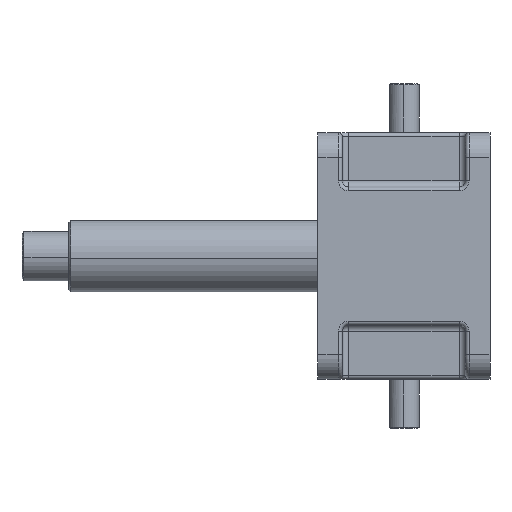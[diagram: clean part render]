
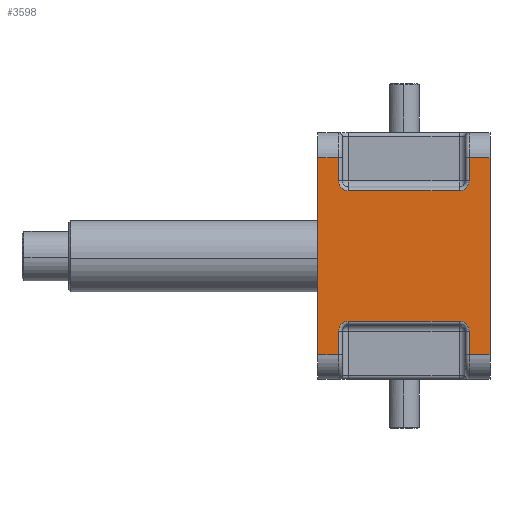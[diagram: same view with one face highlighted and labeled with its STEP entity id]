
A CAD part, left-side view. The second image highlights one B-rep face of the part: STEP entity #3598.
In plain terms, the highlighted planar face has unit normal (-1, 0, 0).
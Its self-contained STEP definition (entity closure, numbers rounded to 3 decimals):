
#3547 = EDGE_CURVE ( 'NONE', #3549, #3548, #6164, .T. ) ;
#3548 = VERTEX_POINT ( 'NONE', #6160 ) ;
#3549 = VERTEX_POINT ( 'NONE', #6159 ) ;
#3552 = VERTEX_POINT ( 'NONE', #6217 ) ;
#3562 = VERTEX_POINT ( 'NONE', #6193 ) ;
#3564 = EDGE_CURVE ( 'NONE', #3552, #3562, #6192, .T. ) ;
#3571 = VERTEX_POINT ( 'NONE', #6235 ) ;
#3582 = EDGE_CURVE ( 'NONE', #3583, #3587, #6272, .T. ) ;
#3583 = VERTEX_POINT ( 'NONE', #6268 ) ;
#3584 = EDGE_CURVE ( 'NONE', #3587, #3588, #6267, .T. ) ;
#3586 = ORIENTED_EDGE ( 'NONE', *, *, #3584, .T. ) ;
#3587 = VERTEX_POINT ( 'NONE', #6263 ) ;
#3588 = VERTEX_POINT ( 'NONE', #6262 ) ;
#3589 = VERTEX_POINT ( 'NONE', #6261 ) ;
#3590 = ORIENTED_EDGE ( 'NONE', *, *, #3600, .T. ) ;
#3591 = ORIENTED_EDGE ( 'NONE', *, *, #3592, .T. ) ;
#3592 = EDGE_CURVE ( 'NONE', #3588, #3594, #6260, .T. ) ;
#3594 = VERTEX_POINT ( 'NONE', #6251 ) ;
#3595 = EDGE_LOOP ( 'NONE', ( #3597, #3586, #3591, #3590, #3642, #3640, #3626, #3611, #3610, #3603, #3604, #4048, #4054, #3656, #3663, #4064 ) ) ;
#3597 = ORIENTED_EDGE ( 'NONE', *, *, #3582, .T. ) ;
#3598 = ADVANCED_FACE ( 'NONE', ( #6250 ), #6248, .F. ) ;
#3600 = EDGE_CURVE ( 'NONE', #3594, #3601, #6310, .T. ) ;
#3601 = VERTEX_POINT ( 'NONE', #6306 ) ;
#3602 = EDGE_CURVE ( 'NONE', #3552, #3548, #6305, .T. ) ;
#3603 = ORIENTED_EDGE ( 'NONE', *, *, #3606, .T. ) ;
#3604 = ORIENTED_EDGE ( 'NONE', *, *, #3624, .T. ) ;
#3606 = EDGE_CURVE ( 'NONE', #3562, #3613, #6301, .T. ) ;
#3610 = ORIENTED_EDGE ( 'NONE', *, *, #3564, .T. ) ;
#3611 = ORIENTED_EDGE ( 'NONE', *, *, #3602, .F. ) ;
#3613 = VERTEX_POINT ( 'NONE', #6288 ) ;
#3624 = EDGE_CURVE ( 'NONE', #3613, #3589, #6335, .T. ) ;
#3626 = ORIENTED_EDGE ( 'NONE', *, *, #3547, .T. ) ;
#3632 = VERTEX_POINT ( 'NONE', #6324 ) ;
#3633 = VERTEX_POINT ( 'NONE', #6323 ) ;
#3639 = EDGE_CURVE ( 'NONE', #3571, #3549, #6322, .T. ) ;
#3640 = ORIENTED_EDGE ( 'NONE', *, *, #3639, .T. ) ;
#3642 = ORIENTED_EDGE ( 'NONE', *, *, #3644, .T. ) ;
#3644 = EDGE_CURVE ( 'NONE', #3601, #3571, #6371, .T. ) ;
#3652 = EDGE_CURVE ( 'NONE', #3632, #3662, #6364, .T. ) ;
#3656 = ORIENTED_EDGE ( 'NONE', *, *, #3652, .T. ) ;
#3659 = EDGE_CURVE ( 'NONE', #3662, #3633, #6356, .T. ) ;
#3662 = VERTEX_POINT ( 'NONE', #6347 ) ;
#3663 = ORIENTED_EDGE ( 'NONE', *, *, #3659, .T. ) ;
#4048 = ORIENTED_EDGE ( 'NONE', *, *, #4050, .T. ) ;
#4049 = VERTEX_POINT ( 'NONE', #7064 ) ;
#4050 = EDGE_CURVE ( 'NONE', #3589, #4049, #7063, .T. ) ;
#4051 = EDGE_CURVE ( 'NONE', #4049, #3632, #7059, .T. ) ;
#4054 = ORIENTED_EDGE ( 'NONE', *, *, #4051, .T. ) ;
#4058 = EDGE_CURVE ( 'NONE', #3633, #3583, #7044, .T. ) ;
#4064 = ORIENTED_EDGE ( 'NONE', *, *, #4058, .T. ) ;
#6159 = CARTESIAN_POINT ( 'NONE',  ( 0., 123., -20. ) ) ;
#6160 = CARTESIAN_POINT ( 'NONE',  ( 0., 140., -20. ) ) ;
#6161 = DIRECTION ( 'NONE',  ( 0., 1., 0. ) ) ;
#6162 = VECTOR ( 'NONE', #6161, 1000. ) ;
#6163 = CARTESIAN_POINT ( 'NONE',  ( 0., 140., -20. ) ) ;
#6164 = LINE ( 'NONE', #6163, #6162 ) ;
#6191 = CARTESIAN_POINT ( 'NONE',  ( 0., 140., -180. ) ) ;
#6192 = LINE ( 'NONE', #6191, #6246 ) ;
#6193 = CARTESIAN_POINT ( 'NONE',  ( 0., 123., -180. ) ) ;
#6217 = CARTESIAN_POINT ( 'NONE',  ( 0., 140., -180. ) ) ;
#6235 = CARTESIAN_POINT ( 'NONE',  ( 0., 123., -39. ) ) ;
#6245 = DIRECTION ( 'NONE',  ( 0., -1., 0. ) ) ;
#6246 = VECTOR ( 'NONE', #6245, 1000. ) ;
#6247 = CARTESIAN_POINT ( 'NONE',  ( 0., 140., 0. ) ) ;
#6248 = PLANE ( 'NONE',  #6249 ) ;
#6249 = AXIS2_PLACEMENT_3D ( 'NONE', #6247, #6312, #6311 ) ;
#6250 = FACE_OUTER_BOUND ( 'NONE', #3595, .T. ) ;
#6251 = CARTESIAN_POINT ( 'NONE',  ( 0., 25., -47. ) ) ;
#6256 = DIRECTION ( 'NONE',  ( 0., 0., -1. ) ) ;
#6257 = DIRECTION ( 'NONE',  ( 1., 0., 0. ) ) ;
#6258 = CARTESIAN_POINT ( 'NONE',  ( 0., 25., -39. ) ) ;
#6259 = AXIS2_PLACEMENT_3D ( 'NONE', #6258, #6257, #6256 ) ;
#6260 = CIRCLE ( 'NONE', #6259, 8. ) ;
#6261 = CARTESIAN_POINT ( 'NONE',  ( 0., 115., -153. ) ) ;
#6262 = CARTESIAN_POINT ( 'NONE',  ( 0., 17., -39. ) ) ;
#6263 = CARTESIAN_POINT ( 'NONE',  ( 0., 17., -20. ) ) ;
#6264 = DIRECTION ( 'NONE',  ( 0., 0., -1. ) ) ;
#6265 = VECTOR ( 'NONE', #6264, 1000. ) ;
#6266 = CARTESIAN_POINT ( 'NONE',  ( 0., 17., 0. ) ) ;
#6267 = LINE ( 'NONE', #6266, #6265 ) ;
#6268 = CARTESIAN_POINT ( 'NONE',  ( 0., 0., -20. ) ) ;
#6269 = DIRECTION ( 'NONE',  ( 0., 1., 0. ) ) ;
#6270 = VECTOR ( 'NONE', #6269, 1000. ) ;
#6271 = CARTESIAN_POINT ( 'NONE',  ( 0., 140., -20. ) ) ;
#6272 = LINE ( 'NONE', #6271, #6270 ) ;
#6288 = CARTESIAN_POINT ( 'NONE',  ( 0., 123., -161. ) ) ;
#6298 = DIRECTION ( 'NONE',  ( 0., 0., 1. ) ) ;
#6299 = VECTOR ( 'NONE', #6298, 1000. ) ;
#6300 = CARTESIAN_POINT ( 'NONE',  ( 0., 123., 0. ) ) ;
#6301 = LINE ( 'NONE', #6300, #6299 ) ;
#6302 = DIRECTION ( 'NONE',  ( 0., 0., 1. ) ) ;
#6303 = VECTOR ( 'NONE', #6302, 1000. ) ;
#6304 = CARTESIAN_POINT ( 'NONE',  ( 0., 140., 0. ) ) ;
#6305 = LINE ( 'NONE', #6304, #6303 ) ;
#6306 = CARTESIAN_POINT ( 'NONE',  ( 0., 115., -47. ) ) ;
#6307 = DIRECTION ( 'NONE',  ( 0., 1., 0. ) ) ;
#6308 = VECTOR ( 'NONE', #6307, 1000. ) ;
#6309 = CARTESIAN_POINT ( 'NONE',  ( 0., 115., -47. ) ) ;
#6310 = LINE ( 'NONE', #6309, #6308 ) ;
#6311 = DIRECTION ( 'NONE',  ( 0., 0., -1. ) ) ;
#6312 = DIRECTION ( 'NONE',  ( 1., 0., 0. ) ) ;
#6319 = DIRECTION ( 'NONE',  ( 0., 0., 1. ) ) ;
#6320 = VECTOR ( 'NONE', #6319, 1000. ) ;
#6321 = CARTESIAN_POINT ( 'NONE',  ( 0., 123., 0. ) ) ;
#6322 = LINE ( 'NONE', #6321, #6320 ) ;
#6323 = CARTESIAN_POINT ( 'NONE',  ( 0., 0., -180. ) ) ;
#6324 = CARTESIAN_POINT ( 'NONE',  ( 0., 17., -161. ) ) ;
#6331 = DIRECTION ( 'NONE',  ( 0., 0., -1. ) ) ;
#6332 = DIRECTION ( 'NONE',  ( 1., 0., 0. ) ) ;
#6333 = CARTESIAN_POINT ( 'NONE',  ( 0., 115., -161. ) ) ;
#6334 = AXIS2_PLACEMENT_3D ( 'NONE', #6333, #6332, #6331 ) ;
#6335 = CIRCLE ( 'NONE', #6334, 8. ) ;
#6347 = CARTESIAN_POINT ( 'NONE',  ( 0., 17., -180. ) ) ;
#6353 = DIRECTION ( 'NONE',  ( 0., -1., 0. ) ) ;
#6354 = VECTOR ( 'NONE', #6353, 1000. ) ;
#6355 = CARTESIAN_POINT ( 'NONE',  ( 0., 140., -180. ) ) ;
#6356 = LINE ( 'NONE', #6355, #6354 ) ;
#6357 = DIRECTION ( 'NONE',  ( 0., 0., -1. ) ) ;
#6358 = VECTOR ( 'NONE', #6357, 1000. ) ;
#6359 = CARTESIAN_POINT ( 'NONE',  ( 0., 17., 0. ) ) ;
#6364 = LINE ( 'NONE', #6359, #6358 ) ;
#6367 = DIRECTION ( 'NONE',  ( 0., 0., -1. ) ) ;
#6368 = DIRECTION ( 'NONE',  ( 1., 0., 0. ) ) ;
#6369 = CARTESIAN_POINT ( 'NONE',  ( 0., 115., -39. ) ) ;
#6370 = AXIS2_PLACEMENT_3D ( 'NONE', #6369, #6368, #6367 ) ;
#6371 = CIRCLE ( 'NONE', #6370, 8. ) ;
#7041 = DIRECTION ( 'NONE',  ( 0., 0., 1. ) ) ;
#7042 = VECTOR ( 'NONE', #7041, 1000. ) ;
#7043 = CARTESIAN_POINT ( 'NONE',  ( 0., 0., 0. ) ) ;
#7044 = LINE ( 'NONE', #7043, #7042 ) ;
#7055 = DIRECTION ( 'NONE',  ( 0., 0., -1. ) ) ;
#7056 = DIRECTION ( 'NONE',  ( 1., 0., 0. ) ) ;
#7057 = CARTESIAN_POINT ( 'NONE',  ( 0., 25., -161. ) ) ;
#7058 = AXIS2_PLACEMENT_3D ( 'NONE', #7057, #7056, #7055 ) ;
#7059 = CIRCLE ( 'NONE', #7058, 8. ) ;
#7060 = DIRECTION ( 'NONE',  ( 0., -1., 0. ) ) ;
#7061 = VECTOR ( 'NONE', #7060, 1000. ) ;
#7062 = CARTESIAN_POINT ( 'NONE',  ( 0., 140., -153. ) ) ;
#7063 = LINE ( 'NONE', #7062, #7061 ) ;
#7064 = CARTESIAN_POINT ( 'NONE',  ( 0., 25., -153. ) ) ;
